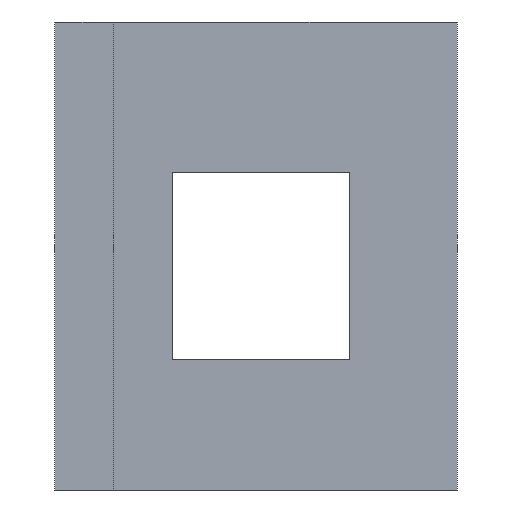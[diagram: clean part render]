
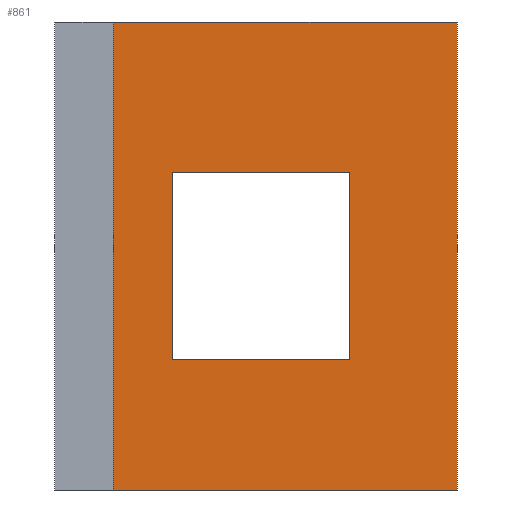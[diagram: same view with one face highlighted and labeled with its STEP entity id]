
A CAD part, left-side view. The second image highlights one B-rep face of the part: STEP entity #861.
In plain terms, the highlighted planar face has unit normal (-1, 0, 0).
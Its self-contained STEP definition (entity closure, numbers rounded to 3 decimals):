
#44 = PLANE('',#45);
#45 = AXIS2_PLACEMENT_3D('',#46,#47,#48);
#46 = CARTESIAN_POINT('',(12.978,36.289,
    24.688));
#47 = DIRECTION('',(-0.,-1.,-0.));
#48 = DIRECTION('',(0.,0.,-1.));
#72 = PLANE('',#73);
#73 = AXIS2_PLACEMENT_3D('',#74,#75,#76);
#74 = CARTESIAN_POINT('',(0.,0.,0.));
#75 = DIRECTION('',(0.,0.,1.));
#76 = DIRECTION('',(1.,0.,-0.));
#126 = PLANE('',#127);
#127 = AXIS2_PLACEMENT_3D('',#128,#129,#130);
#128 = CARTESIAN_POINT('',(0.,0.,49.376));
#129 = DIRECTION('',(0.,0.,1.));
#130 = DIRECTION('',(1.,0.,-0.));
#142 = VERTEX_POINT('',#143);
#143 = CARTESIAN_POINT('',(25.957,36.289,
    49.376));
#166 = VERTEX_POINT('',#167);
#167 = CARTESIAN_POINT('',(25.957,36.289,0.));
#188 = EDGE_CURVE('',#166,#142,#189,.T.);
#189 = SURFACE_CURVE('',#190,(#194,#201),.PCURVE_S1.);
#190 = LINE('',#191,#192);
#191 = CARTESIAN_POINT('',(25.957,36.289,0.));
#192 = VECTOR('',#193,1.);
#193 = DIRECTION('',(0.,0.,1.));
#194 = PCURVE('',#44,#195);
#195 = DEFINITIONAL_REPRESENTATION('',(#196),#200);
#196 = LINE('',#197,#198);
#197 = CARTESIAN_POINT('',(24.688,12.978));
#198 = VECTOR('',#199,1.);
#199 = DIRECTION('',(-1.,0.));
#200 = ( GEOMETRIC_REPRESENTATION_CONTEXT(2) 
PARAMETRIC_REPRESENTATION_CONTEXT() REPRESENTATION_CONTEXT('2D SPACE',''
  ) );
#201 = PCURVE('',#202,#207);
#202 = PLANE('',#203);
#203 = AXIS2_PLACEMENT_3D('',#204,#205,#206);
#204 = CARTESIAN_POINT('',(25.957,0.,0.));
#205 = DIRECTION('',(1.,0.,-0.));
#206 = DIRECTION('',(0.,0.,1.));
#207 = DEFINITIONAL_REPRESENTATION('',(#208),#212);
#208 = LINE('',#209,#210);
#209 = CARTESIAN_POINT('',(0.,-36.289));
#210 = VECTOR('',#211,1.);
#211 = DIRECTION('',(1.,0.));
#212 = ( GEOMETRIC_REPRESENTATION_CONTEXT(2) 
PARAMETRIC_REPRESENTATION_CONTEXT() REPRESENTATION_CONTEXT('2D SPACE',''
  ) );
#219 = EDGE_CURVE('',#220,#142,#222,.T.);
#220 = VERTEX_POINT('',#221);
#221 = CARTESIAN_POINT('',(25.957,0.,49.376));
#222 = SURFACE_CURVE('',#223,(#227,#234),.PCURVE_S1.);
#223 = LINE('',#224,#225);
#224 = CARTESIAN_POINT('',(25.957,0.,49.376));
#225 = VECTOR('',#226,1.);
#226 = DIRECTION('',(-0.,1.,0.));
#227 = PCURVE('',#126,#228);
#228 = DEFINITIONAL_REPRESENTATION('',(#229),#233);
#229 = LINE('',#230,#231);
#230 = CARTESIAN_POINT('',(25.957,0.));
#231 = VECTOR('',#232,1.);
#232 = DIRECTION('',(0.,1.));
#233 = ( GEOMETRIC_REPRESENTATION_CONTEXT(2) 
PARAMETRIC_REPRESENTATION_CONTEXT() REPRESENTATION_CONTEXT('2D SPACE',''
  ) );
#234 = PCURVE('',#202,#235);
#235 = DEFINITIONAL_REPRESENTATION('',(#236),#240);
#236 = LINE('',#237,#238);
#237 = CARTESIAN_POINT('',(49.376,0.));
#238 = VECTOR('',#239,1.);
#239 = DIRECTION('',(0.,-1.));
#240 = ( GEOMETRIC_REPRESENTATION_CONTEXT(2) 
PARAMETRIC_REPRESENTATION_CONTEXT() REPRESENTATION_CONTEXT('2D SPACE',''
  ) );
#258 = PLANE('',#259);
#259 = AXIS2_PLACEMENT_3D('',#260,#261,#262);
#260 = CARTESIAN_POINT('',(0.,0.,0.));
#261 = DIRECTION('',(-0.,1.,0.));
#262 = DIRECTION('',(0.,0.,1.));
#601 = EDGE_CURVE('',#602,#166,#604,.T.);
#602 = VERTEX_POINT('',#603);
#603 = CARTESIAN_POINT('',(25.957,0.,0.));
#604 = SURFACE_CURVE('',#605,(#609,#616),.PCURVE_S1.);
#605 = LINE('',#606,#607);
#606 = CARTESIAN_POINT('',(25.957,0.,0.));
#607 = VECTOR('',#608,1.);
#608 = DIRECTION('',(-0.,1.,0.));
#609 = PCURVE('',#72,#610);
#610 = DEFINITIONAL_REPRESENTATION('',(#611),#615);
#611 = LINE('',#612,#613);
#612 = CARTESIAN_POINT('',(25.957,0.));
#613 = VECTOR('',#614,1.);
#614 = DIRECTION('',(0.,1.));
#615 = ( GEOMETRIC_REPRESENTATION_CONTEXT(2) 
PARAMETRIC_REPRESENTATION_CONTEXT() REPRESENTATION_CONTEXT('2D SPACE',''
  ) );
#616 = PCURVE('',#202,#617);
#617 = DEFINITIONAL_REPRESENTATION('',(#618),#622);
#618 = LINE('',#619,#620);
#619 = CARTESIAN_POINT('',(0.,0.));
#620 = VECTOR('',#621,1.);
#621 = DIRECTION('',(0.,-1.));
#622 = ( GEOMETRIC_REPRESENTATION_CONTEXT(2) 
PARAMETRIC_REPRESENTATION_CONTEXT() REPRESENTATION_CONTEXT('2D SPACE',''
  ) );
#861 = ADVANCED_FACE('f005',(#862,#888),#202,.F.);
#862 = FACE_BOUND('',#863,.F.);
#863 = EDGE_LOOP('',(#864,#865,#866,#867));
#864 = ORIENTED_EDGE('',*,*,#601,.T.);
#865 = ORIENTED_EDGE('',*,*,#188,.T.);
#866 = ORIENTED_EDGE('',*,*,#219,.F.);
#867 = ORIENTED_EDGE('',*,*,#868,.F.);
#868 = EDGE_CURVE('',#602,#220,#869,.T.);
#869 = SURFACE_CURVE('',#870,(#874,#881),.PCURVE_S1.);
#870 = LINE('',#871,#872);
#871 = CARTESIAN_POINT('',(25.957,0.,0.));
#872 = VECTOR('',#873,1.);
#873 = DIRECTION('',(0.,0.,1.));
#874 = PCURVE('',#202,#875);
#875 = DEFINITIONAL_REPRESENTATION('',(#876),#880);
#876 = LINE('',#877,#878);
#877 = CARTESIAN_POINT('',(0.,0.));
#878 = VECTOR('',#879,1.);
#879 = DIRECTION('',(1.,0.));
#880 = ( GEOMETRIC_REPRESENTATION_CONTEXT(2) 
PARAMETRIC_REPRESENTATION_CONTEXT() REPRESENTATION_CONTEXT('2D SPACE',''
  ) );
#881 = PCURVE('',#258,#882);
#882 = DEFINITIONAL_REPRESENTATION('',(#883),#887);
#883 = LINE('',#884,#885);
#884 = CARTESIAN_POINT('',(0.,25.957));
#885 = VECTOR('',#886,1.);
#886 = DIRECTION('',(1.,0.));
#887 = ( GEOMETRIC_REPRESENTATION_CONTEXT(2) 
PARAMETRIC_REPRESENTATION_CONTEXT() REPRESENTATION_CONTEXT('2D SPACE',''
  ) );
#888 = FACE_BOUND('',#889,.F.);
#889 = EDGE_LOOP('',(#890,#920,#948,#976));
#890 = ORIENTED_EDGE('',*,*,#891,.T.);
#891 = EDGE_CURVE('',#892,#894,#896,.T.);
#892 = VERTEX_POINT('',#893);
#893 = CARTESIAN_POINT('',(25.957,11.42,
    13.739));
#894 = VERTEX_POINT('',#895);
#895 = CARTESIAN_POINT('',(25.957,11.42,
    33.543));
#896 = SURFACE_CURVE('',#897,(#901,#908),.PCURVE_S1.);
#897 = LINE('',#898,#899);
#898 = CARTESIAN_POINT('',(25.957,11.42,
    13.739));
#899 = VECTOR('',#900,1.);
#900 = DIRECTION('',(0.,0.,1.));
#901 = PCURVE('',#202,#902);
#902 = DEFINITIONAL_REPRESENTATION('',(#903),#907);
#903 = LINE('',#904,#905);
#904 = CARTESIAN_POINT('',(13.739,-11.42));
#905 = VECTOR('',#906,1.);
#906 = DIRECTION('',(1.,0.));
#907 = ( GEOMETRIC_REPRESENTATION_CONTEXT(2) 
PARAMETRIC_REPRESENTATION_CONTEXT() REPRESENTATION_CONTEXT('2D SPACE',''
  ) );
#908 = PCURVE('',#909,#914);
#909 = PLANE('',#910);
#910 = AXIS2_PLACEMENT_3D('',#911,#912,#913);
#911 = CARTESIAN_POINT('',(25.957,11.42,
    13.739));
#912 = DIRECTION('',(0.,-1.,0.));
#913 = DIRECTION('',(0.,0.,1.));
#914 = DEFINITIONAL_REPRESENTATION('',(#915),#919);
#915 = LINE('',#916,#917);
#916 = CARTESIAN_POINT('',(0.,0.));
#917 = VECTOR('',#918,1.);
#918 = DIRECTION('',(1.,0.));
#919 = ( GEOMETRIC_REPRESENTATION_CONTEXT(2) 
PARAMETRIC_REPRESENTATION_CONTEXT() REPRESENTATION_CONTEXT('2D SPACE',''
  ) );
#920 = ORIENTED_EDGE('',*,*,#921,.T.);
#921 = EDGE_CURVE('',#894,#922,#924,.T.);
#922 = VERTEX_POINT('',#923);
#923 = CARTESIAN_POINT('',(25.957,30.008,
    33.543));
#924 = SURFACE_CURVE('',#925,(#929,#936),.PCURVE_S1.);
#925 = LINE('',#926,#927);
#926 = CARTESIAN_POINT('',(25.957,11.42,
    33.543));
#927 = VECTOR('',#928,1.);
#928 = DIRECTION('',(0.,1.,0.));
#929 = PCURVE('',#202,#930);
#930 = DEFINITIONAL_REPRESENTATION('',(#931),#935);
#931 = LINE('',#932,#933);
#932 = CARTESIAN_POINT('',(33.543,-11.42));
#933 = VECTOR('',#934,1.);
#934 = DIRECTION('',(0.,-1.));
#935 = ( GEOMETRIC_REPRESENTATION_CONTEXT(2) 
PARAMETRIC_REPRESENTATION_CONTEXT() REPRESENTATION_CONTEXT('2D SPACE',''
  ) );
#936 = PCURVE('',#937,#942);
#937 = PLANE('',#938);
#938 = AXIS2_PLACEMENT_3D('',#939,#940,#941);
#939 = CARTESIAN_POINT('',(25.957,11.42,
    33.543));
#940 = DIRECTION('',(0.,-0.,1.));
#941 = DIRECTION('',(0.,1.,0.));
#942 = DEFINITIONAL_REPRESENTATION('',(#943),#947);
#943 = LINE('',#944,#945);
#944 = CARTESIAN_POINT('',(0.,0.));
#945 = VECTOR('',#946,1.);
#946 = DIRECTION('',(1.,0.));
#947 = ( GEOMETRIC_REPRESENTATION_CONTEXT(2) 
PARAMETRIC_REPRESENTATION_CONTEXT() REPRESENTATION_CONTEXT('2D SPACE',''
  ) );
#948 = ORIENTED_EDGE('',*,*,#949,.T.);
#949 = EDGE_CURVE('',#922,#950,#952,.T.);
#950 = VERTEX_POINT('',#951);
#951 = CARTESIAN_POINT('',(25.957,30.008,
    13.739));
#952 = SURFACE_CURVE('',#953,(#957,#964),.PCURVE_S1.);
#953 = LINE('',#954,#955);
#954 = CARTESIAN_POINT('',(25.957,30.008,
    33.543));
#955 = VECTOR('',#956,1.);
#956 = DIRECTION('',(0.,0.,-1.));
#957 = PCURVE('',#202,#958);
#958 = DEFINITIONAL_REPRESENTATION('',(#959),#963);
#959 = LINE('',#960,#961);
#960 = CARTESIAN_POINT('',(33.543,-30.008));
#961 = VECTOR('',#962,1.);
#962 = DIRECTION('',(-1.,0.));
#963 = ( GEOMETRIC_REPRESENTATION_CONTEXT(2) 
PARAMETRIC_REPRESENTATION_CONTEXT() REPRESENTATION_CONTEXT('2D SPACE',''
  ) );
#964 = PCURVE('',#965,#970);
#965 = PLANE('',#966);
#966 = AXIS2_PLACEMENT_3D('',#967,#968,#969);
#967 = CARTESIAN_POINT('',(25.957,30.008,
    33.543));
#968 = DIRECTION('',(0.,1.,0.));
#969 = DIRECTION('',(0.,0.,-1.));
#970 = DEFINITIONAL_REPRESENTATION('',(#971),#975);
#971 = LINE('',#972,#973);
#972 = CARTESIAN_POINT('',(0.,0.));
#973 = VECTOR('',#974,1.);
#974 = DIRECTION('',(1.,0.));
#975 = ( GEOMETRIC_REPRESENTATION_CONTEXT(2) 
PARAMETRIC_REPRESENTATION_CONTEXT() REPRESENTATION_CONTEXT('2D SPACE',''
  ) );
#976 = ORIENTED_EDGE('',*,*,#977,.T.);
#977 = EDGE_CURVE('',#950,#892,#978,.T.);
#978 = SURFACE_CURVE('',#979,(#983,#990),.PCURVE_S1.);
#979 = LINE('',#980,#981);
#980 = CARTESIAN_POINT('',(25.957,30.008,
    13.739));
#981 = VECTOR('',#982,1.);
#982 = DIRECTION('',(0.,-1.,0.));
#983 = PCURVE('',#202,#984);
#984 = DEFINITIONAL_REPRESENTATION('',(#985),#989);
#985 = LINE('',#986,#987);
#986 = CARTESIAN_POINT('',(13.739,-30.008));
#987 = VECTOR('',#988,1.);
#988 = DIRECTION('',(0.,1.));
#989 = ( GEOMETRIC_REPRESENTATION_CONTEXT(2) 
PARAMETRIC_REPRESENTATION_CONTEXT() REPRESENTATION_CONTEXT('2D SPACE',''
  ) );
#990 = PCURVE('',#991,#996);
#991 = PLANE('',#992);
#992 = AXIS2_PLACEMENT_3D('',#993,#994,#995);
#993 = CARTESIAN_POINT('',(25.957,30.008,
    13.739));
#994 = DIRECTION('',(0.,-0.,-1.));
#995 = DIRECTION('',(0.,-1.,0.));
#996 = DEFINITIONAL_REPRESENTATION('',(#997),#1001);
#997 = LINE('',#998,#999);
#998 = CARTESIAN_POINT('',(0.,0.));
#999 = VECTOR('',#1000,1.);
#1000 = DIRECTION('',(1.,0.));
#1001 = ( GEOMETRIC_REPRESENTATION_CONTEXT(2) 
PARAMETRIC_REPRESENTATION_CONTEXT() REPRESENTATION_CONTEXT('2D SPACE',''
  ) );
